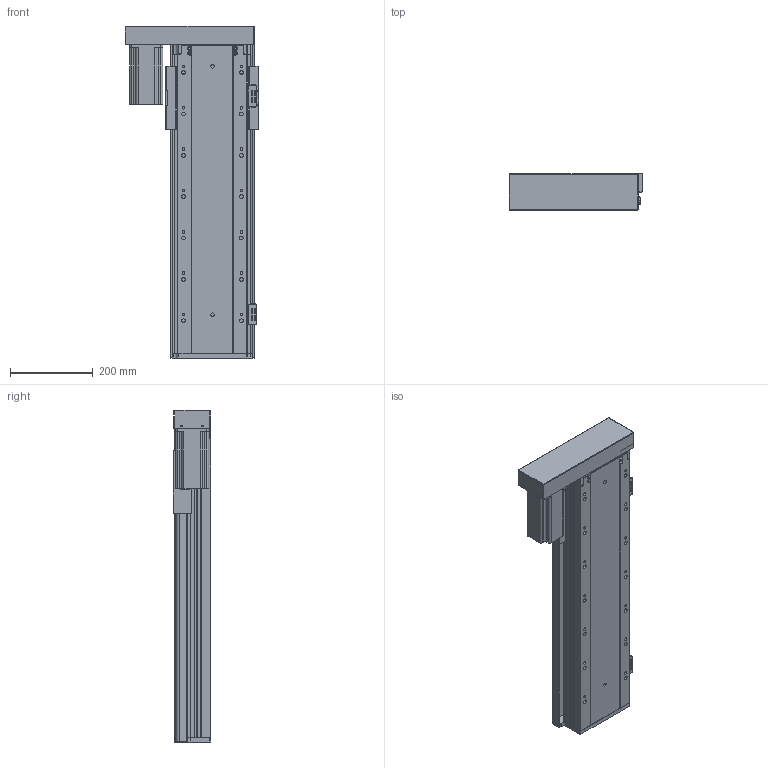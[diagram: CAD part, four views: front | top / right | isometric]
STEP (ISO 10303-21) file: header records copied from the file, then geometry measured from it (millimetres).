
FILE_DESCRIPTION (( 'STEP AP203' ), '1' );
FILE_NAME ('RY170FB-L2020-300-LK.SLDASM_500.step', '2021-02-23T03:02:32', ( '盈信电脑' ), ( '东莞市道滘镇水果街19号' ), 'SwSTEP 2.0', 'SolidWorks 2012', '' );
FILE_SCHEMA (( 'CONFIG_CONTROL_DESIGN' ));
Products named in the file (16): RY170FB-L2020-300-LK.SLDASM_500; RY140-674嫖萇耀輸; RY170FB-左右折电机安装板750W; RY170FB-酘衵殏萇儂欶750W; RY140FB-674嫖萇覜茼え; 覜茼ん674; RY140直线电机感应器674光电安装座; RY170FB-綴裔啣; RY170FB-铝滑块(25丝杆）; RY170FB-300蛌殏奻裔-LK_500; 怢湛750W萇儂ㄗ80遺ㄘ; RY170FB-300蛌殏倰第菁釱-LK_500; 滅袉蝶18-10; 滅袉蝶18-28; RY170FB-转折电机端支撑座(7002)
Assembly tree (18 placements, depth 3):
  RY170FB-L2020-300-LK.SLDASM_500
    RY170FB-300蛌殏倰第菁釱-LK_500
    滅袉蝶18-28
    滅袉蝶18-10
    RY170FB-转折电机端支撑座(7002)
    怢湛750W萇儂ㄗ80遺ㄘ
    RY170FB-铝滑块(25丝杆）
    RY170FB-綴裔啣
    RY170FB-300蛌殏奻裔-LK_500
    RY140-674嫖萇耀輸
      覜茼ん674  x2
      RY140直线电机感应器674光电安装座
    RY140-674嫖萇耀輸
      覜茼ん674
      RY140直线电机感应器674光电安装座
    RY140FB-674嫖萇覜茼え
    RY170FB-左右折电机安装板750W
    RY170FB-酘衵殏萇儂欶750W
Bounding box: 323.95 x 90.5 x 802.7 mm (x, y, z)
Volume: 5621705.5 mm3; surface area: 1589137.5 mm2
Topology: 16 solids, 16 shells, 1537 faces, 4358 edges, 2776 vertices
Faces by surface type: cylinder 799, plane 590, cone 140, bspline 8
Entity records: 48735 total; most frequent: CARTESIAN_POINT 11564, ORIENTED_EDGE 7488, DIRECTION 7298, EDGE_CURVE 3744, AXIS2_PLACEMENT_3D 2652, VERTEX_POINT 2456, VECTOR 1994, LINE 1994
